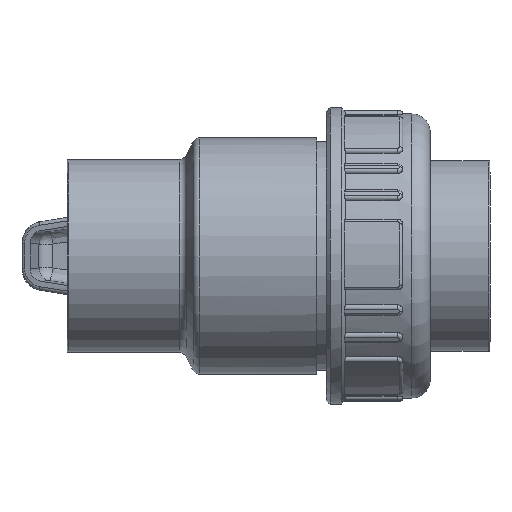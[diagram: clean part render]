
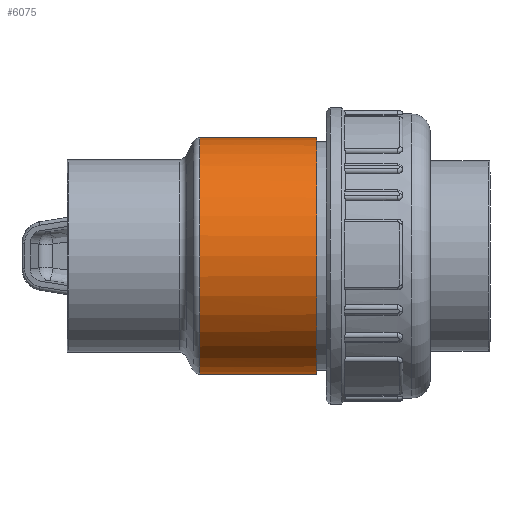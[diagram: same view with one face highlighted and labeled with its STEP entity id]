
A CAD part, left-side view. The second image highlights one B-rep face of the part: STEP entity #6075.
In plain terms, the highlighted cylindrical face has radius 31.85 mm (diameter 63.7 mm), a full revolution.
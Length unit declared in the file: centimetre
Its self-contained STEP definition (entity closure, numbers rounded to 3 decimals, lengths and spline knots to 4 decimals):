
#216=CYLINDRICAL_SURFACE('',#6523,3.185);
#312=FACE_BOUND('',#1111,.T.);
#409=CIRCLE('',#6519,3.185);
#412=CIRCLE('',#6524,3.185);
#741=FACE_OUTER_BOUND('',#1110,.T.);
#1110=EDGE_LOOP('',(#4175,#4176,#4177));
#1111=EDGE_LOOP('',(#4178));
#2108=B_SPLINE_CURVE_WITH_KNOTS('',3,(#9736,#9737,#9738,#9739,#9740,#9741,
#9742,#9743,#9744,#9745),.UNSPECIFIED.,.F.,.F.,(4,3,1,1,1,4),(-8.5984,
-8.5983,-7.9842,-7.37,-6.7558,
-6.5625),.UNSPECIFIED.);
#2109=B_SPLINE_CURVE_WITH_KNOTS('',3,(#9747,#9748,#9749,#9750,#9751,#9752,
#9753,#9754,#9755,#9756,#9757,#9758,#9759,#9760,#9761),.UNSPECIFIED.,.F.,
 .F.,(4,1,1,1,1,1,1,1,1,1,1,1,4),(-14.9357,-14.74,-14.1259,
-13.5117,-13.1022,-12.6928,-12.2834,-11.8739,
-11.055,-10.4409,-9.8267,-9.2125,
-8.5984),.UNSPECIFIED.);
#2443=VERTEX_POINT('',#9726);
#2446=VERTEX_POINT('',#9734);
#2447=VERTEX_POINT('',#9735);
#2448=VERTEX_POINT('',#9746);
#3084=EDGE_CURVE('',#2443,#2443,#409,.T.);
#3087=EDGE_CURVE('',#2446,#2447,#2108,.T.);
#3088=EDGE_CURVE('',#2448,#2446,#2109,.T.);
#3089=EDGE_CURVE('',#2448,#2447,#412,.T.);
#4175=ORIENTED_EDGE('',*,*,#3087,.F.);
#4176=ORIENTED_EDGE('',*,*,#3088,.F.);
#4177=ORIENTED_EDGE('',*,*,#3089,.T.);
#4178=ORIENTED_EDGE('',*,*,#3084,.F.);
#6075=ADVANCED_FACE('',(#741,#312),#216,.T.);
#6519=AXIS2_PLACEMENT_3D('',#9727,#7382,#7383);
#6523=AXIS2_PLACEMENT_3D('',#9733,#7390,#7391);
#6524=AXIS2_PLACEMENT_3D('',#9762,#7392,#7393);
#7382=DIRECTION('center_axis',(0.,1.,0.));
#7383=DIRECTION('ref_axis',(1.,0.,0.));
#7390=DIRECTION('center_axis',(0.,1.,0.));
#7391=DIRECTION('ref_axis',(-1.,0.,0.));
#7392=DIRECTION('center_axis',(0.,1.,0.));
#7393=DIRECTION('ref_axis',(-1.,0.,0.));
#9726=CARTESIAN_POINT('',(-3.185,1.7278,0.));
#9727=CARTESIAN_POINT('Origin',(0.,1.7278,
0.));
#9733=CARTESIAN_POINT('Origin',(0.,-0.625,
0.));
#9734=CARTESIAN_POINT('',(2.8501,-0.0012,1.4216));
#9735=CARTESIAN_POINT('',(3.1828,-1.43,0.1186));
#9736=CARTESIAN_POINT('Ctrl Pts',(2.8499,-0.0012,
1.4218));
#9737=CARTESIAN_POINT('Ctrl Pts',(2.8499,-0.0012,
1.4218));
#9738=CARTESIAN_POINT('Ctrl Pts',(2.8499,-0.0012,
1.4218));
#9739=CARTESIAN_POINT('Ctrl Pts',(2.8499,-0.0012,
1.4218));
#9740=CARTESIAN_POINT('Ctrl Pts',(2.85,-0.2184,1.4216));
#9741=CARTESIAN_POINT('Ctrl Pts',(2.9037,-0.6525,1.3199));
#9742=CARTESIAN_POINT('Ctrl Pts',(3.0649,-1.1563,0.9183));
#9743=CARTESIAN_POINT('Ctrl Pts',(3.1614,-1.3807,0.4666));
#9744=CARTESIAN_POINT('Ctrl Pts',(3.1801,-1.4242,0.1862));
#9745=CARTESIAN_POINT('Ctrl Pts',(3.1825,-1.4298,0.1185));
#9746=CARTESIAN_POINT('',(3.1828,-1.43,-0.1186));
#9747=CARTESIAN_POINT('Ctrl Pts',(3.1826,-1.4294,-0.1185));
#9748=CARTESIAN_POINT('Ctrl Pts',(3.1802,-1.4237,-0.1869));
#9749=CARTESIAN_POINT('Ctrl Pts',(3.1613,-1.3799,-0.4681));
#9750=CARTESIAN_POINT('Ctrl Pts',(3.0641,-1.155,-0.9199));
#9751=CARTESIAN_POINT('Ctrl Pts',(2.9216,-0.7054,-1.276));
#9752=CARTESIAN_POINT('Ctrl Pts',(2.8476,-0.2195,-1.4269));
#9753=CARTESIAN_POINT('Ctrl Pts',(2.8478,0.222,-1.4267));
#9754=CARTESIAN_POINT('Ctrl Pts',(2.9114,0.6381,-1.2962));
#9755=CARTESIAN_POINT('Ctrl Pts',(3.0431,1.1083,-0.9773));
#9756=CARTESIAN_POINT('Ctrl Pts',(3.1906,1.4466,-0.4076));
#9757=CARTESIAN_POINT('Ctrl Pts',(3.1896,1.4463,0.3355));
#9758=CARTESIAN_POINT('Ctrl Pts',(3.0644,1.1544,0.9197));
#9759=CARTESIAN_POINT('Ctrl Pts',(2.9033,0.6502,1.3208));
#9760=CARTESIAN_POINT('Ctrl Pts',(2.8499,0.2159,1.4217));
#9761=CARTESIAN_POINT('Ctrl Pts',(2.85,-0.0012,
1.4216));
#9762=CARTESIAN_POINT('Origin',(0.,-1.43,0.));
